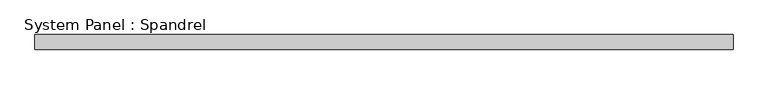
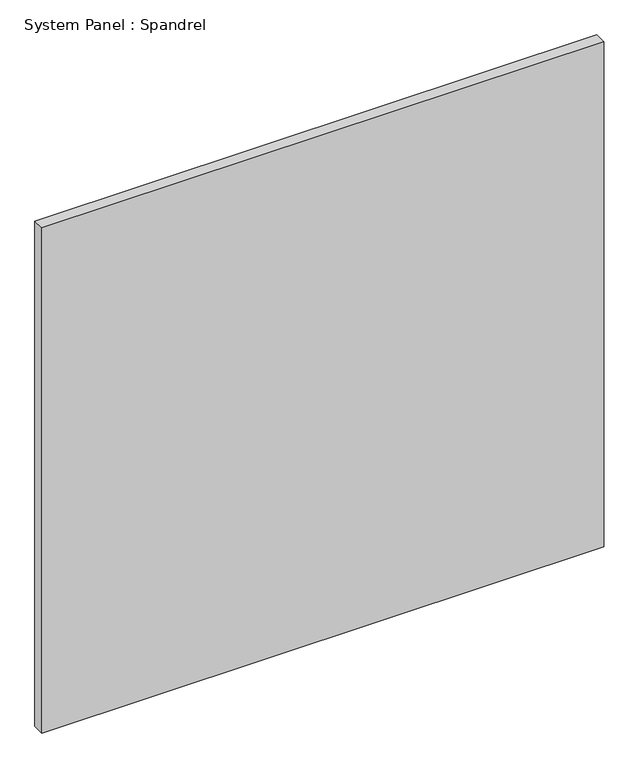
"""IFC4 building model written with IfcOpenShell, lengths in millimetres: plate geometry, System Panel : Spandrel."""

from ifc_helpers import new_model, si_unit, origin, origin_with_axes, place, context, project, spatial, polyline, outline, extrude, source, transform, mapped, element, save


def system_panel_spandrel_70c9dd64(model_context):
    return source(origin(), model_context, "Body", "SweptSolid", [
        extrude(outline(polyline([(578.870352, -25.0), (-578.870352, -25.0), (-578.870352, 0.0), (578.870352, 0.0), (578.870352, -25.0)])), origin_with_axes(), (0.0, 0.0, 1.0), 1100.0),
    ])


if __name__ == "__main__":
    model = new_model("IFC4")
    model_context = context("Model", 3, world=origin())
    ifc_project = project(units=[si_unit("LENGTHUNIT", "METRE", prefix="MILLI")], contexts=[model_context])
    site = spatial("IfcSite", under=ifc_project)
    building = spatial("IfcBuilding", under=site)
    placement = place(None, origin())
    system_panel_spandrel_shape = system_panel_spandrel_70c9dd64(model_context)
    element("IfcPlate", 1, ObjectType="System Panel : Spandrel", at=placement, inside=building, context=model_context, shape_type="MappedRepresentation", body=[
        mapped(system_panel_spandrel_shape, transform((0.0, 0.0, 0.0), x_axis=(1.0, 0.0, 0.0), y_axis=(0.0, 1.0, 0.0), z_axis=(0.0, 0.0, 1.0))),
    ])
    save(model, "model.ifc")
